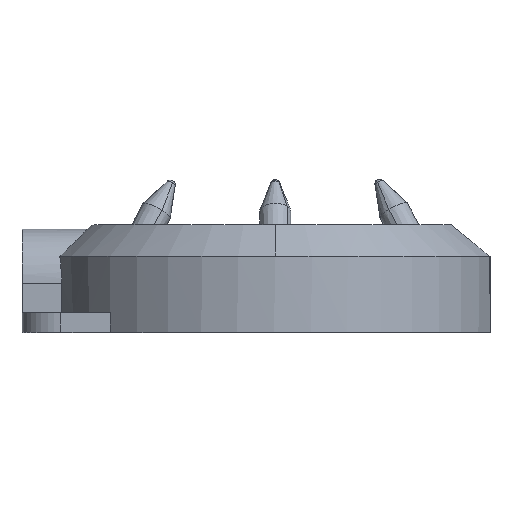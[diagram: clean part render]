
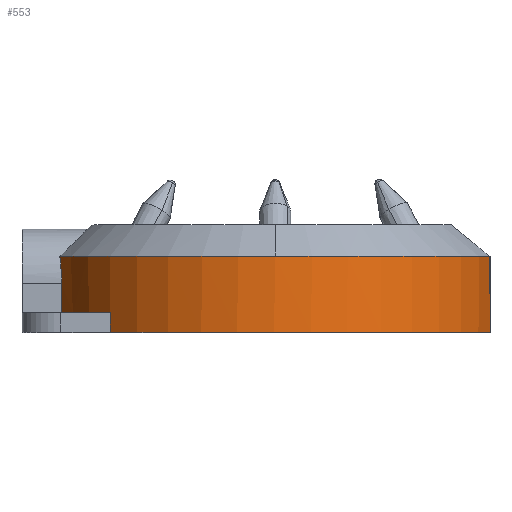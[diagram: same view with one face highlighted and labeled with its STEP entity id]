
A CAD part, top view. The second image highlights one B-rep face of the part: STEP entity #553.
In plain terms, the highlighted cylindrical face has radius 56.6 mm (diameter 113.2 mm), a partial arc.
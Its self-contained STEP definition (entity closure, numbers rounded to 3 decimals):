
#160 = EDGE_CURVE ( 'NONE', #379, #344, #1536, .T. ) ;
#344 = VERTEX_POINT ( 'NONE', #1898 ) ;
#379 = VERTEX_POINT ( 'NONE', #2322 ) ;
#381 = EDGE_CURVE ( 'NONE', #382, #379, #2320, .T. ) ;
#382 = VERTEX_POINT ( 'NONE', #2321 ) ;
#473 = VERTEX_POINT ( 'NONE', #2480 ) ;
#553 = ADVANCED_FACE ( 'NONE', ( #2623 ), #2617, .T. ) ;
#554 = EDGE_LOOP ( 'NONE', ( #702, #708, #609, #611, #612, #613, #595, #730 ) ) ;
#594 = VERTEX_POINT ( 'NONE', #2446 ) ;
#595 = ORIENTED_EDGE ( 'NONE', *, *, #741, .T. ) ;
#609 = ORIENTED_EDGE ( 'NONE', *, *, #610, .T. ) ;
#610 = EDGE_CURVE ( 'NONE', #473, #382, #2784, .T. ) ;
#611 = ORIENTED_EDGE ( 'NONE', *, *, #381, .T. ) ;
#612 = ORIENTED_EDGE ( 'NONE', *, *, #160, .T. ) ;
#613 = ORIENTED_EDGE ( 'NONE', *, *, #728, .T. ) ;
#702 = ORIENTED_EDGE ( 'NONE', *, *, #705, .F. ) ;
#705 = EDGE_CURVE ( 'NONE', #706, #707, #2923, .T. ) ;
#706 = VERTEX_POINT ( 'NONE', #2924 ) ;
#707 = VERTEX_POINT ( 'NONE', #2919 ) ;
#708 = ORIENTED_EDGE ( 'NONE', *, *, #709, .F. ) ;
#709 = EDGE_CURVE ( 'NONE', #473, #706, #2933, .T. ) ;
#712 = VERTEX_POINT ( 'NONE', #2935 ) ;
#728 = EDGE_CURVE ( 'NONE', #344, #594, #2951, .T. ) ;
#730 = ORIENTED_EDGE ( 'NONE', *, *, #731, .F. ) ;
#731 = EDGE_CURVE ( 'NONE', #707, #712, #2964, .T. ) ;
#741 = EDGE_CURVE ( 'NONE', #594, #712, #2990, .T. ) ;
#1403 = CARTESIAN_POINT ( 'NONE',  ( 0., 19.512, 0. ) ) ;
#1533 = DIRECTION ( 'NONE',  ( 0., 0., -1. ) ) ;
#1534 = DIRECTION ( 'NONE',  ( 0., -1., 0. ) ) ;
#1535 = AXIS2_PLACEMENT_3D ( 'NONE', #1403, #1534, #1533 ) ;
#1536 = CIRCLE ( 'NONE', #1535, 56.6 ) ;
#1898 = CARTESIAN_POINT ( 'NONE',  ( -55.291, 19.512, 12.103 ) ) ;
#2316 = DIRECTION ( 'NONE',  ( 0., 0., -1. ) ) ;
#2317 = DIRECTION ( 'NONE',  ( 0., -1., 0. ) ) ;
#2318 = CARTESIAN_POINT ( 'NONE',  ( 0., 19.512, 0. ) ) ;
#2319 = AXIS2_PLACEMENT_3D ( 'NONE', #2318, #2317, #2316 ) ;
#2320 = CIRCLE ( 'NONE', #2319, 56.6 ) ;
#2321 = CARTESIAN_POINT ( 'NONE',  ( 55.087, 19.512, 13. ) ) ;
#2322 = CARTESIAN_POINT ( 'NONE',  ( 0., 19.512, 56.6 ) ) ;
#2446 = CARTESIAN_POINT ( 'NONE',  ( -54.841, 12.475, 14. ) ) ;
#2480 = CARTESIAN_POINT ( 'NONE',  ( 55.087, 0., 13. ) ) ;
#2613 = DIRECTION ( 'NONE',  ( 0., 0., -1. ) ) ;
#2614 = DIRECTION ( 'NONE',  ( 0., -1., 0. ) ) ;
#2615 = CARTESIAN_POINT ( 'NONE',  ( 0., 0., 0. ) ) ;
#2616 = AXIS2_PLACEMENT_3D ( 'NONE', #2615, #2614, #2613 ) ;
#2617 = CYLINDRICAL_SURFACE ( 'NONE', #2616, 56.6 ) ;
#2623 = FACE_OUTER_BOUND ( 'NONE', #554, .T. ) ;
#2782 = DIRECTION ( 'NONE',  ( 0., 1., 0. ) ) ;
#2783 = CARTESIAN_POINT ( 'NONE',  ( 55.087, 0., 13. ) ) ;
#2784 = LINE ( 'NONE', #2783, #2856 ) ;
#2856 = VECTOR ( 'NONE', #2782, 1000. ) ;
#2919 = CARTESIAN_POINT ( 'NONE',  ( -42.395, 5., 37.5 ) ) ;
#2920 = DIRECTION ( 'NONE',  ( 0., 1., 0. ) ) ;
#2921 = VECTOR ( 'NONE', #2920, 1000. ) ;
#2922 = CARTESIAN_POINT ( 'NONE',  ( -42.395, 0., 37.5 ) ) ;
#2923 = LINE ( 'NONE', #2922, #2921 ) ;
#2924 = CARTESIAN_POINT ( 'NONE',  ( -42.395, 0., 37.5 ) ) ;
#2928 = CARTESIAN_POINT ( 'NONE',  ( -55.042, 17.321, 13.192 ) ) ;
#2929 = CARTESIAN_POINT ( 'NONE',  ( -55.155, 18.446, 12.723 ) ) ;
#2930 = CARTESIAN_POINT ( 'NONE',  ( -55.291, 19.512, 12.103 ) ) ;
#2932 = CARTESIAN_POINT ( 'NONE',  ( 0., 0., 0. ) ) ;
#2933 = CIRCLE ( 'NONE', #2938, 56.6 ) ;
#2935 = CARTESIAN_POINT ( 'NONE',  ( -54.841, 5., 14. ) ) ;
#2936 = DIRECTION ( 'NONE',  ( 0., 0., -1. ) ) ;
#2937 = DIRECTION ( 'NONE',  ( 0., -1., 0. ) ) ;
#2938 = AXIS2_PLACEMENT_3D ( 'NONE', #2932, #2937, #2936 ) ;
#2945 = DIRECTION ( 'NONE',  ( 0., 0., -1. ) ) ;
#2946 = DIRECTION ( 'NONE',  ( 0., -1., 0. ) ) ;
#2947 = CARTESIAN_POINT ( 'NONE',  ( 0., 5., 0. ) ) ;
#2948 = CARTESIAN_POINT ( 'NONE',  ( -54.841, 12.475, 14. ) ) ;
#2949 = CARTESIAN_POINT ( 'NONE',  ( -54.841, 13.095, 14. ) ) ;
#2951 = B_SPLINE_CURVE_WITH_KNOTS ( 'NONE', 3,
 ( #2930, #2929, #2928, #2963, #2962, #2961, #2949, #2948 ),
 .UNSPECIFIED., .F., .F.,
 ( 4, 2, 2, 4 ),
 ( 0., 0.004, 0.006, 0.007 ),
 .UNSPECIFIED. ) ;
#2952 = AXIS2_PLACEMENT_3D ( 'NONE', #2947, #2946, #2945 ) ;
#2961 = CARTESIAN_POINT ( 'NONE',  ( -54.852, 13.712, 13.959 ) ) ;
#2962 = CARTESIAN_POINT ( 'NONE',  ( -54.893, 14.935, 13.796 ) ) ;
#2963 = CARTESIAN_POINT ( 'NONE',  ( -54.924, 15.545, 13.673 ) ) ;
#2964 = CIRCLE ( 'NONE', #2952, 56.6 ) ;
#2988 = VECTOR ( 'NONE', #2991, 1000. ) ;
#2989 = CARTESIAN_POINT ( 'NONE',  ( -54.841, 0., 14. ) ) ;
#2990 = LINE ( 'NONE', #2989, #2988 ) ;
#2991 = DIRECTION ( 'NONE',  ( 0., -1., 0. ) ) ;
